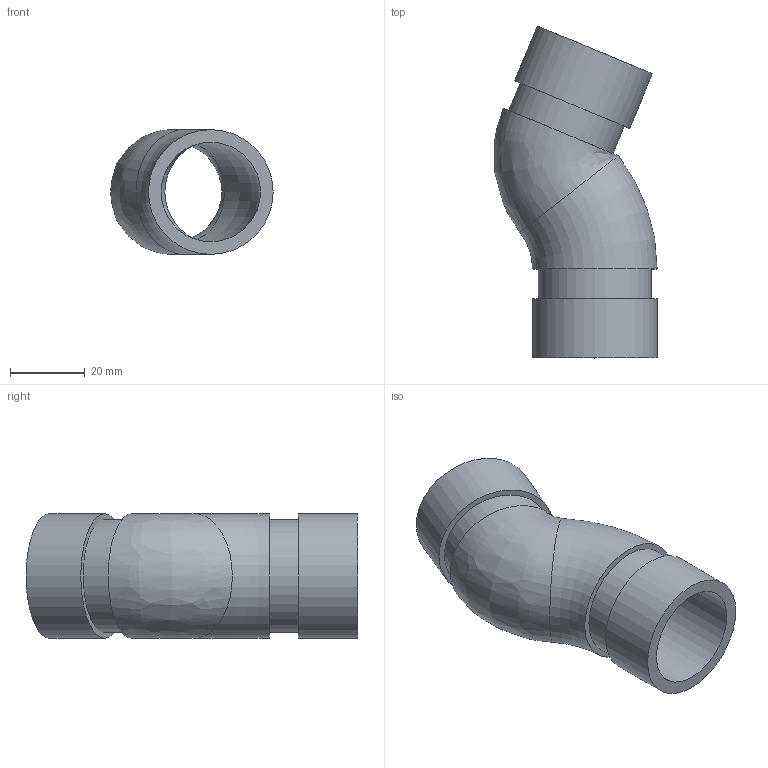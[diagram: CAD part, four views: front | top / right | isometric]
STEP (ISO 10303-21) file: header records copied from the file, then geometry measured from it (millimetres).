
FILE_DESCRIPTION(/* description */ ('VIC ELBOW 22 1/2 DEG GOOSENECK No 12 (OGS)','CAx-IF Rec.Pracs.---Representation and Presentation of Product Manufacturing Information (PMI)---4.0---2014-10-13'),/* implementation_level */ '2;1');
FILE_NAME(/* name */ 'C:\Users\Vjadhav\Desktop\CAD for Inventor\1\12\STEP\Victaulic_IPS_Elbow 22.5 Deg Gooseneck_No 12 (OGS)\Victaulic_IPS_Elbow 22.5 Deg Gooseneck_No 12 (OGS)_1 (25).stp',/* time_stamp */ '2021-12-22T09:18:30+06:00',/* author */ ('Aayare'),/* organization */ ('Victaulic'),/* preprocessor_version */ 'ST-DEVELOPER v17.2',/* originating_system */ 'Autodesk Inventor 2019',/* authorisation */ '');
FILE_SCHEMA (('AP242_MANAGED_MODEL_BASED_3D_ENGINEERING_MIM_LF { 1 0 10303 442 1 1 4 }'));
Length unit declared in the file: inch
Products named in the file (1): GN12-01.0
Bounding box: 43.49 x 88.94 x 33.4 mm (x, y, z)
Volume: 25358.1 mm3; surface area: 17501.5 mm2
Topology: 1 solids, 1 shells, 16 faces, 43 edges, 31 vertices
Faces by surface type: plane 6, cylinder 6, torus 3, bspline 1
Full cylindrical faces by diameter (mm): 26.645 x2, 30.226 x2, 33.401 x2
Entity records: 702 total; most frequent: DIRECTION 134, CARTESIAN_POINT 132, ORIENTED_EDGE 82, AXIS2_PLACEMENT_3D 64, EDGE_CURVE 41, CIRCLE 35, VERTEX_POINT 31, EDGE_LOOP 22
